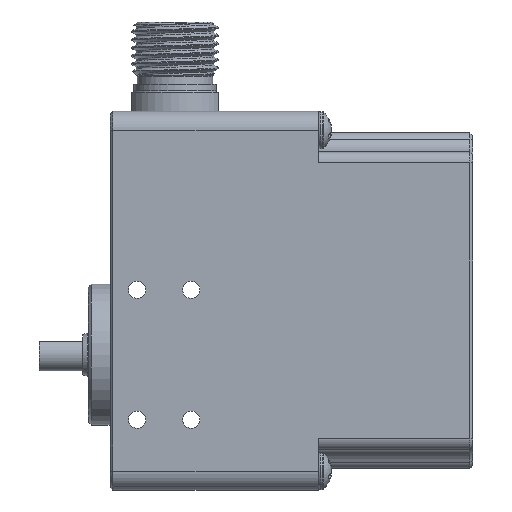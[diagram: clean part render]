
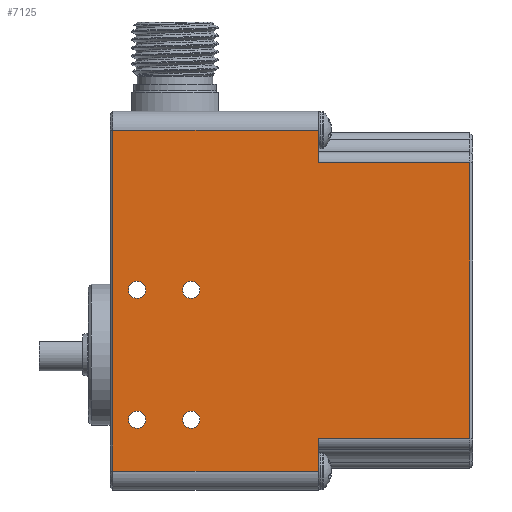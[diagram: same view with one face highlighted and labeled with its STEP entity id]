
A CAD part, left-side view. The second image highlights one B-rep face of the part: STEP entity #7125.
In plain terms, the highlighted planar face has unit normal (-1, 0, 0).
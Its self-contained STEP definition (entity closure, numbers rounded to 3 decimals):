
#392 = AXIS2_PLACEMENT_3D ( 'NONE', #5008, #19033, #7415 ) ;
#511 = AXIS2_PLACEMENT_3D ( 'NONE', #7683, #25639, #11775 ) ;
#713 = CARTESIAN_POINT ( 'NONE',  ( -16., -37.5, 35. ) ) ;
#906 = VERTEX_POINT ( 'NONE', #28836 ) ;
#1429 = LINE ( 'NONE', #28998, #13019 ) ;
#1661 = ORIENTED_EDGE ( 'NONE', *, *, #7604, .T. ) ;
#1727 = CARTESIAN_POINT ( 'NONE',  ( -16., 24., 2. ) ) ;
#1842 = CARTESIAN_POINT ( 'NONE',  ( -16., 24., -20.4 ) ) ;
#2426 = VERTEX_POINT ( 'NONE', #19443 ) ;
#2857 = CARTESIAN_POINT ( 'NONE',  ( -16., 24., 3.6 ) ) ;
#2875 = FACE_BOUND ( 'NONE', #28604, .T. ) ;
#3338 = CARTESIAN_POINT ( 'NONE',  ( -16., 14., -20.4 ) ) ;
#3359 = DIRECTION ( 'NONE',  ( 0., -1., 0. ) ) ;
#3492 = VERTEX_POINT ( 'NONE', #3338 ) ;
#3790 = VERTEX_POINT ( 'NONE', #21741 ) ;
#3806 = DIRECTION ( 'NONE',  ( 0., 0., 1. ) ) ;
#4587 = CARTESIAN_POINT ( 'NONE',  ( -16., -9.5, -25.5 ) ) ;
#4798 = AXIS2_PLACEMENT_3D ( 'NONE', #20182, #9304, #22597 ) ;
#4865 = CARTESIAN_POINT ( 'NONE',  ( -16., -9.5, 31.5 ) ) ;
#5008 = CARTESIAN_POINT ( 'NONE',  ( -16., 24., -22. ) ) ;
#5555 = ORIENTED_EDGE ( 'NONE', *, *, #13717, .F. ) ;
#5740 = EDGE_CURVE ( 'NONE', #19119, #10415, #15497, .T. ) ;
#6361 = CARTESIAN_POINT ( 'NONE',  ( -16., -38., 25.5 ) ) ;
#6370 = VECTOR ( 'NONE', #26636, 1000. ) ;
#6434 = ORIENTED_EDGE ( 'NONE', *, *, #28425, .T. ) ;
#6754 = EDGE_CURVE ( 'NONE', #14754, #906, #21452, .T. ) ;
#6884 = VECTOR ( 'NONE', #3359, 1000. ) ;
#7125 = ADVANCED_FACE ( 'NONE', ( #9653, #21562, #2875, #28179, #19159 ), #23828, .T. ) ;
#7415 = DIRECTION ( 'NONE',  ( 0., 0., 1. ) ) ;
#7604 = EDGE_CURVE ( 'NONE', #10415, #14754, #29091, .T. ) ;
#7683 = CARTESIAN_POINT ( 'NONE',  ( -16., -2.5, 35. ) ) ;
#7725 = CARTESIAN_POINT ( 'NONE',  ( -16., -2.5, -31.5 ) ) ;
#8015 = VERTEX_POINT ( 'NONE', #10226 ) ;
#8171 = CARTESIAN_POINT ( 'NONE',  ( -16., 14., 2. ) ) ;
#8240 = EDGE_CURVE ( 'NONE', #3492, #3492, #12519, .T. ) ;
#8610 = EDGE_LOOP ( 'NONE', ( #18640 ) ) ;
#9208 = EDGE_LOOP ( 'NONE', ( #9249 ) ) ;
#9249 = ORIENTED_EDGE ( 'NONE', *, *, #19205, .F. ) ;
#9304 = DIRECTION ( 'NONE',  ( -1., 0., 0. ) ) ;
#9360 = CARTESIAN_POINT ( 'NONE',  ( -16., -9.5, 35. ) ) ;
#9653 = FACE_BOUND ( 'NONE', #9208, .T. ) ;
#10226 = CARTESIAN_POINT ( 'NONE',  ( -16., -37.5, 25.5 ) ) ;
#10415 = VERTEX_POINT ( 'NONE', #10493 ) ;
#10493 = CARTESIAN_POINT ( 'NONE',  ( -16., 28.5, 31.5 ) ) ;
#10586 = AXIS2_PLACEMENT_3D ( 'NONE', #8171, #17382, #3806 ) ;
#10963 = EDGE_CURVE ( 'NONE', #3790, #3790, #21185, .T. ) ;
#11555 = VECTOR ( 'NONE', #15548, 1000. ) ;
#11623 = VERTEX_POINT ( 'NONE', #2857 ) ;
#11775 = DIRECTION ( 'NONE',  ( 0., 0., 1. ) ) ;
#11920 = DIRECTION ( 'NONE',  ( 0., 0., -1. ) ) ;
#11930 = CIRCLE ( 'NONE', #392, 1.6 ) ;
#12055 = LINE ( 'NONE', #28019, #19793 ) ;
#12283 = VECTOR ( 'NONE', #11920, 1000. ) ;
#12519 = CIRCLE ( 'NONE', #4798, 1.6 ) ;
#13019 = VECTOR ( 'NONE', #15292, 1000. ) ;
#13441 = VERTEX_POINT ( 'NONE', #1842 ) ;
#13605 = VERTEX_POINT ( 'NONE', #20092 ) ;
#13717 = EDGE_CURVE ( 'NONE', #19119, #2426, #22957, .T. ) ;
#14649 = EDGE_LOOP ( 'NONE', ( #27266, #1661, #17179, #19496, #6434, #16052, #21291, #5555 ) ) ;
#14754 = VERTEX_POINT ( 'NONE', #21298 ) ;
#15292 = DIRECTION ( 'NONE',  ( 0., -1., 0. ) ) ;
#15497 = LINE ( 'NONE', #22286, #6370 ) ;
#15548 = DIRECTION ( 'NONE',  ( 0., 0., -1. ) ) ;
#15568 = LINE ( 'NONE', #6361, #27309 ) ;
#16052 = ORIENTED_EDGE ( 'NONE', *, *, #27580, .T. ) ;
#16373 = VECTOR ( 'NONE', #20500, 1000. ) ;
#17179 = ORIENTED_EDGE ( 'NONE', *, *, #6754, .T. ) ;
#17382 = DIRECTION ( 'NONE',  ( -1., 0., 0. ) ) ;
#18153 = DIRECTION ( 'NONE',  ( -1., 0., 0. ) ) ;
#18323 = CIRCLE ( 'NONE', #28907, 1.6 ) ;
#18640 = ORIENTED_EDGE ( 'NONE', *, *, #28489, .F. ) ;
#19033 = DIRECTION ( 'NONE',  ( -1., 0., 0. ) ) ;
#19119 = VERTEX_POINT ( 'NONE', #4865 ) ;
#19159 = FACE_OUTER_BOUND ( 'NONE', #14649, .T. ) ;
#19205 = EDGE_CURVE ( 'NONE', #13441, #13441, #11930, .T. ) ;
#19443 = CARTESIAN_POINT ( 'NONE',  ( -16., -9.5, 25.5 ) ) ;
#19496 = ORIENTED_EDGE ( 'NONE', *, *, #29245, .F. ) ;
#19793 = VECTOR ( 'NONE', #21099, 1000. ) ;
#20092 = CARTESIAN_POINT ( 'NONE',  ( -16., -37.5, -25.5 ) ) ;
#20182 = CARTESIAN_POINT ( 'NONE',  ( -16., 14., -22. ) ) ;
#20500 = DIRECTION ( 'NONE',  ( 0., 0., 1. ) ) ;
#20633 = ORIENTED_EDGE ( 'NONE', *, *, #10963, .F. ) ;
#21099 = DIRECTION ( 'NONE',  ( 0., 0., -1. ) ) ;
#21185 = CIRCLE ( 'NONE', #10586, 1.6 ) ;
#21291 = ORIENTED_EDGE ( 'NONE', *, *, #23007, .T. ) ;
#21298 = CARTESIAN_POINT ( 'NONE',  ( -16., 28.5, -31.5 ) ) ;
#21452 = LINE ( 'NONE', #7725, #6884 ) ;
#21562 = FACE_BOUND ( 'NONE', #8610, .T. ) ;
#21741 = CARTESIAN_POINT ( 'NONE',  ( -16., 14., 3.6 ) ) ;
#21871 = CARTESIAN_POINT ( 'NONE',  ( -16., 28.5, 35. ) ) ;
#22286 = CARTESIAN_POINT ( 'NONE',  ( -16., -2.5, 31.5 ) ) ;
#22597 = DIRECTION ( 'NONE',  ( 0., 0., 1. ) ) ;
#22926 = LINE ( 'NONE', #713, #16373 ) ;
#22957 = LINE ( 'NONE', #9360, #12283 ) ;
#23007 = EDGE_CURVE ( 'NONE', #8015, #2426, #15568, .T. ) ;
#23828 = PLANE ( 'NONE',  #511 ) ;
#24619 = ORIENTED_EDGE ( 'NONE', *, *, #8240, .F. ) ;
#24747 = DIRECTION ( 'NONE',  ( 0., 1., 0. ) ) ;
#24778 = VERTEX_POINT ( 'NONE', #4587 ) ;
#25639 = DIRECTION ( 'NONE',  ( -1., 0., 0. ) ) ;
#26031 = EDGE_LOOP ( 'NONE', ( #20633 ) ) ;
#26636 = DIRECTION ( 'NONE',  ( 0., 1., 0. ) ) ;
#27266 = ORIENTED_EDGE ( 'NONE', *, *, #5740, .T. ) ;
#27309 = VECTOR ( 'NONE', #24747, 1000. ) ;
#27580 = EDGE_CURVE ( 'NONE', #13605, #8015, #22926, .T. ) ;
#28019 = CARTESIAN_POINT ( 'NONE',  ( -16., -9.5, -35. ) ) ;
#28179 = FACE_BOUND ( 'NONE', #26031, .T. ) ;
#28425 = EDGE_CURVE ( 'NONE', #24778, #13605, #1429, .T. ) ;
#28489 = EDGE_CURVE ( 'NONE', #11623, #11623, #18323, .T. ) ;
#28604 = EDGE_LOOP ( 'NONE', ( #24619 ) ) ;
#28836 = CARTESIAN_POINT ( 'NONE',  ( -16., -9.5, -31.5 ) ) ;
#28907 = AXIS2_PLACEMENT_3D ( 'NONE', #1727, #18153, #29728 ) ;
#28998 = CARTESIAN_POINT ( 'NONE',  ( -16., -38., -25.5 ) ) ;
#29091 = LINE ( 'NONE', #21871, #11555 ) ;
#29245 = EDGE_CURVE ( 'NONE', #24778, #906, #12055, .T. ) ;
#29728 = DIRECTION ( 'NONE',  ( 0., 0., 1. ) ) ;
